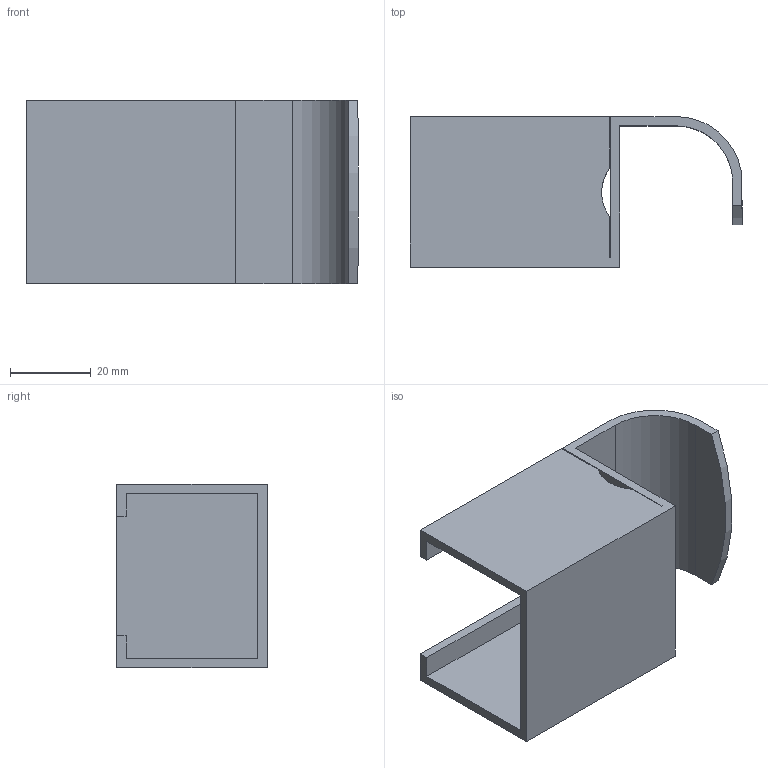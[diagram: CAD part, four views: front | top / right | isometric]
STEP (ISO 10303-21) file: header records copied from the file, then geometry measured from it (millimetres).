
FILE_DESCRIPTION (( 'STEP AP214' ), '1' );
FILE_NAME ('JB-501.step', '2023-12-26T01:19:57', ( 'catia' ), ( 'HP Inc.' ), 'SwSTEP 2.0', 'SolidWorks 2021', '' );
FILE_SCHEMA (( 'AUTOMOTIVE_DESIGN' ));
Length unit declared in the file: millimetre
Products named in the file (1): JB-501
Bounding box: 82.3 x 37.3 x 45.6 mm (x, y, z)
Volume: 23233.4 mm3; surface area: 21395 mm2
Topology: 1 solids, 1 shells, 28 faces, 78 edges, 52 vertices
Faces by surface type: plane 23, cylinder 5
Entity records: 926 total; most frequent: CARTESIAN_POINT 159, ORIENTED_EDGE 156, DIRECTION 146, EDGE_CURVE 78, LINE 68, VECTOR 68, VERTEX_POINT 52, AXIS2_PLACEMENT_3D 39
